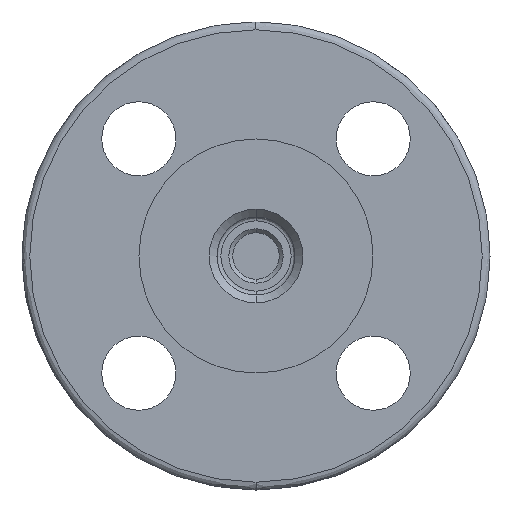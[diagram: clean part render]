
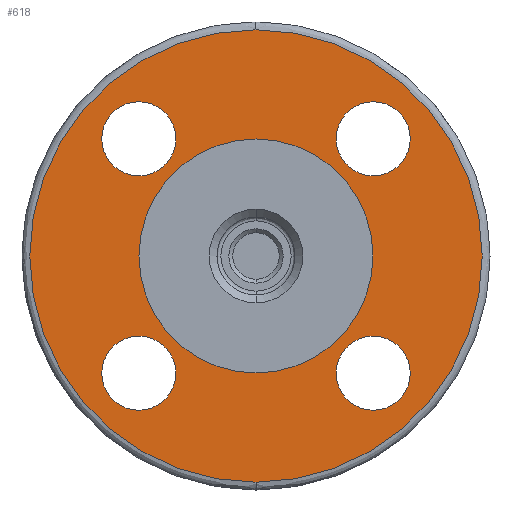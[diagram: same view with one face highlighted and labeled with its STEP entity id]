
A CAD part, left-side view. The second image highlights one B-rep face of the part: STEP entity #618.
In plain terms, the highlighted planar face has unit normal (-1, 0, 0).
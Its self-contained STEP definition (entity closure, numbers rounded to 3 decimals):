
#618=ADVANCED_FACE('',(#3188,#3189,#3190,#3191,#3192,#3193),#3187,.F.);
#3187=PLANE('',#6942);
#3188=FACE_OUTER_BOUND('',#6943,.T.);
#3189=FACE_BOUND('',#6944,.T.);
#3190=FACE_BOUND('',#6945,.T.);
#3191=FACE_BOUND('',#6946,.T.);
#3192=FACE_BOUND('',#6947,.T.);
#3193=FACE_BOUND('',#6948,.T.);
#6939=CARTESIAN_POINT('',(-68.5,-110.459,68.));
#6940=DIRECTION('',(1.,0.,0.));
#6941=DIRECTION('',(0.,0.,-1.));
#6942=AXIS2_PLACEMENT_3D('',#6939,#6940,#6941);
#6943=EDGE_LOOP('',(#8701,#8702));
#6944=EDGE_LOOP('',(#8703,#8704));
#6945=EDGE_LOOP('',(#8705,#8706));
#6946=EDGE_LOOP('',(#8707,#8708));
#6947=EDGE_LOOP('',(#8709,#8710));
#6948=EDGE_LOOP('',(#8711,#8712));
#8701=ORIENTED_EDGE('',*,*,#9525,.T.);
#8702=ORIENTED_EDGE('',*,*,#9526,.T.);
#8703=ORIENTED_EDGE('',*,*,#9527,.F.);
#8704=ORIENTED_EDGE('',*,*,#9528,.F.);
#8705=ORIENTED_EDGE('',*,*,#9529,.F.);
#8706=ORIENTED_EDGE('',*,*,#9530,.F.);
#8707=ORIENTED_EDGE('',*,*,#9531,.F.);
#8708=ORIENTED_EDGE('',*,*,#9532,.F.);
#8709=ORIENTED_EDGE('',*,*,#9533,.F.);
#8710=ORIENTED_EDGE('',*,*,#9534,.F.);
#8711=ORIENTED_EDGE('',*,*,#9535,.F.);
#8712=ORIENTED_EDGE('',*,*,#9536,.F.);
#9525=EDGE_CURVE('',#13286,#13287,#13288,.T.);
#9526=EDGE_CURVE('',#13287,#13286,#13294,.T.);
#9527=EDGE_CURVE('',#13300,#13301,#13302,.T.);
#9528=EDGE_CURVE('',#13301,#13300,#13308,.T.);
#9529=EDGE_CURVE('',#13314,#13315,#13316,.T.);
#9530=EDGE_CURVE('',#13315,#13314,#13322,.T.);
#9531=EDGE_CURVE('',#13328,#13329,#13330,.T.);
#9532=EDGE_CURVE('',#13329,#13328,#13336,.T.);
#9533=EDGE_CURVE('',#13342,#13343,#13344,.T.);
#9534=EDGE_CURVE('',#13343,#13342,#13350,.T.);
#9535=EDGE_CURVE('',#13356,#13357,#13358,.T.);
#9536=EDGE_CURVE('',#13357,#13356,#13364,.T.);
#13286=VERTEX_POINT('',#17180);
#13287=VERTEX_POINT('',#17181);
#13288=CIRCLE('',#17185,58.);
#13294=CIRCLE('',#17189,58.);
#13300=VERTEX_POINT('',#17190);
#13301=VERTEX_POINT('',#17191);
#13302=CIRCLE('',#17195,9.5);
#13308=CIRCLE('',#17199,9.5);
#13314=VERTEX_POINT('',#17200);
#13315=VERTEX_POINT('',#17201);
#13316=CIRCLE('',#17205,30.);
#13322=CIRCLE('',#17209,30.);
#13328=VERTEX_POINT('',#17210);
#13329=VERTEX_POINT('',#17211);
#13330=CIRCLE('',#17215,9.5);
#13336=CIRCLE('',#17219,9.5);
#13342=VERTEX_POINT('',#17220);
#13343=VERTEX_POINT('',#17221);
#13344=CIRCLE('',#17225,9.5);
#13350=CIRCLE('',#17229,9.5);
#13356=VERTEX_POINT('',#17230);
#13357=VERTEX_POINT('',#17231);
#13358=CIRCLE('',#17235,9.5);
#13364=CIRCLE('',#17239,9.5);
#17180=CARTESIAN_POINT('',(-68.5,0.,58.));
#17181=CARTESIAN_POINT('',(-68.5,0.,-58.));
#17182=CARTESIAN_POINT('',(-68.5,0.,0.));
#17183=DIRECTION('',(-1.,0.,0.));
#17184=DIRECTION('',(0.,0.,1.));
#17185=AXIS2_PLACEMENT_3D('',#17182,#17183,#17184);
#17186=CARTESIAN_POINT('',(-68.5,0.,0.));
#17187=DIRECTION('',(-1.,0.,0.));
#17188=DIRECTION('',(0.,0.,1.));
#17189=AXIS2_PLACEMENT_3D('',#17186,#17187,#17188);
#17190=CARTESIAN_POINT('',(-68.5,30.052,39.552));
#17191=CARTESIAN_POINT('',(-68.5,30.052,20.552));
#17192=CARTESIAN_POINT('',(-68.5,30.052,30.052));
#17193=DIRECTION('',(-1.,0.,0.));
#17194=DIRECTION('',(0.,0.,-1.));
#17195=AXIS2_PLACEMENT_3D('',#17192,#17193,#17194);
#17196=CARTESIAN_POINT('',(-68.5,30.052,30.052));
#17197=DIRECTION('',(-1.,0.,0.));
#17198=DIRECTION('',(0.,0.,-1.));
#17199=AXIS2_PLACEMENT_3D('',#17196,#17197,#17198);
#17200=CARTESIAN_POINT('',(-68.5,0.,-30.));
#17201=CARTESIAN_POINT('',(-68.5,0.,30.));
#17202=CARTESIAN_POINT('',(-68.5,0.,0.));
#17203=DIRECTION('',(-1.,0.,0.));
#17204=DIRECTION('',(0.,0.,1.));
#17205=AXIS2_PLACEMENT_3D('',#17202,#17203,#17204);
#17206=CARTESIAN_POINT('',(-68.5,0.,0.));
#17207=DIRECTION('',(-1.,0.,0.));
#17208=DIRECTION('',(0.,0.,1.));
#17209=AXIS2_PLACEMENT_3D('',#17206,#17207,#17208);
#17210=CARTESIAN_POINT('',(-68.5,-30.052,-20.552));
#17211=CARTESIAN_POINT('',(-68.5,-30.052,-39.552));
#17212=CARTESIAN_POINT('',(-68.5,-30.052,-30.052));
#17213=DIRECTION('',(-1.,0.,0.));
#17214=DIRECTION('',(0.,0.,-1.));
#17215=AXIS2_PLACEMENT_3D('',#17212,#17213,#17214);
#17216=CARTESIAN_POINT('',(-68.5,-30.052,-30.052));
#17217=DIRECTION('',(-1.,0.,0.));
#17218=DIRECTION('',(0.,0.,-1.));
#17219=AXIS2_PLACEMENT_3D('',#17216,#17217,#17218);
#17220=CARTESIAN_POINT('',(-68.5,30.052,-20.552));
#17221=CARTESIAN_POINT('',(-68.5,30.052,-39.552));
#17222=CARTESIAN_POINT('',(-68.5,30.052,-30.052));
#17223=DIRECTION('',(-1.,0.,0.));
#17224=DIRECTION('',(0.,0.,-1.));
#17225=AXIS2_PLACEMENT_3D('',#17222,#17223,#17224);
#17226=CARTESIAN_POINT('',(-68.5,30.052,-30.052));
#17227=DIRECTION('',(-1.,0.,0.));
#17228=DIRECTION('',(0.,0.,-1.));
#17229=AXIS2_PLACEMENT_3D('',#17226,#17227,#17228);
#17230=CARTESIAN_POINT('',(-68.5,-30.052,39.552));
#17231=CARTESIAN_POINT('',(-68.5,-30.052,20.552));
#17232=CARTESIAN_POINT('',(-68.5,-30.052,30.052));
#17233=DIRECTION('',(-1.,0.,0.));
#17234=DIRECTION('',(0.,0.,-1.));
#17235=AXIS2_PLACEMENT_3D('',#17232,#17233,#17234);
#17236=CARTESIAN_POINT('',(-68.5,-30.052,30.052));
#17237=DIRECTION('',(-1.,0.,0.));
#17238=DIRECTION('',(0.,0.,-1.));
#17239=AXIS2_PLACEMENT_3D('',#17236,#17237,#17238);
